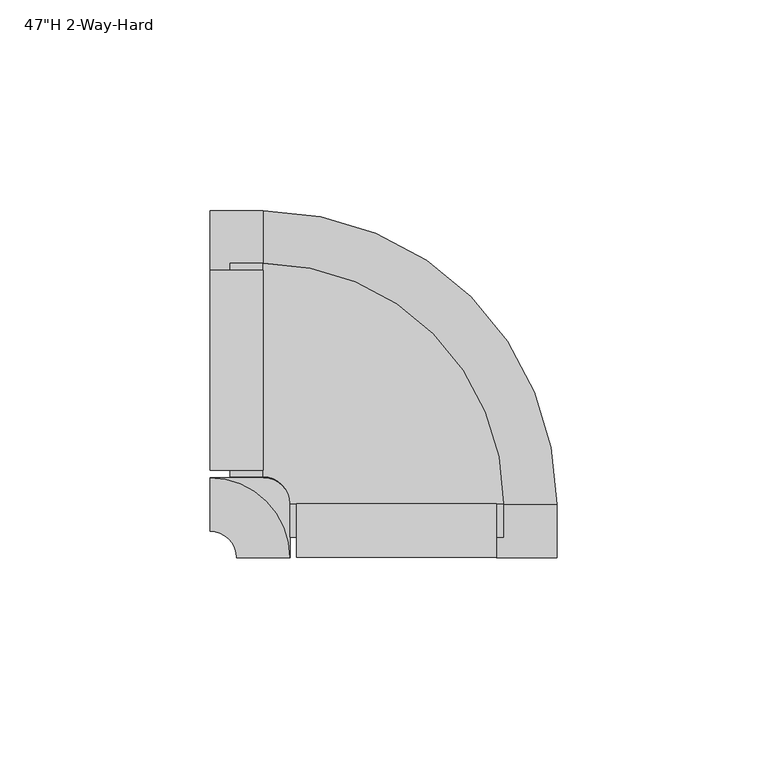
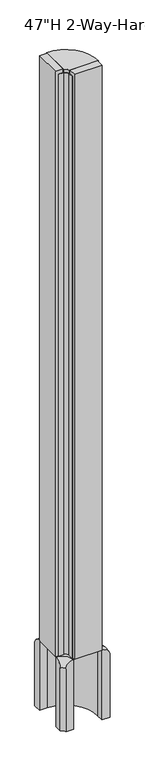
"""IFC4 building model written with IfcOpenShell, lengths in millimetres: furniture geometry."""

import ifcopenshell
import ifcopenshell.guid

model = None  # the IFC model being written
_history = None  # IfcOwnerHistory: only IFC2X3 demands one
_inside = {}  # id of a spatial element -> (the spatial element, [elements in it])
_under = {}  # id of a project, library or spatial element -> (it, [spatial elements below it])
_declared = {}  # id of a project -> (the project, [libraries it declares])
_typed = {}  # id of a type object -> (the type object, [elements of that type])
_made_of = {}  # id of a material, layer set ... -> (it, [elements and type objects made of it])


def new_model(schema):
    """Start an empty IFC model of exactly this schema.

    Asked for "IFC4X3", IfcOpenShell would pick the latest addendum, in which some entities
    have other attributes; the version numbers below select the first issue.
    IFC2X3 requires an IfcOwnerHistory on every rooted entity: one is made here for all.
    """
    global model, _history
    if schema == "IFC4X3":
        model = ifcopenshell.file(schema_version=(4, 3, 0, 0))
    else:
        model = ifcopenshell.file(schema=schema)
    _inside.clear()
    _under.clear()
    _declared.clear()
    _typed.clear()
    _made_of.clear()
    _history = None
    if model.schema == "IFC2X3":
        org = make("IfcOrganization", Name="unknown")
        user = make(
            "IfcPersonAndOrganization",
            ThePerson=make("IfcPerson", FamilyName="unknown"),
            TheOrganization=org,
        )
        app = make(
            "IfcApplication",
            ApplicationDeveloper=org,
            Version="unknown",
            ApplicationFullName="unknown",
            ApplicationIdentifier="unknown",
        )
        _history = make(
            "IfcOwnerHistory",
            OwningUser=user,
            OwningApplication=app,
            ChangeAction="ADDED",
            CreationDate=0,
        )
    return model


def make(cls, **values):
    """One entity of the class cls with the attributes given. An attribute that is None is left unset."""
    return model.create_entity(
        cls, **{name: value for name, value in values.items() if value is not None}
    )


def rooted(cls, **values):
    """An entity with a GlobalId (a new one), such as an element, a storey or a relation."""
    return make(cls, GlobalId=ifcopenshell.guid.new(), OwnerHistory=_history, **values)


def si_unit(unit_type, name, prefix=None):
    """IfcSIUnit, for example si_unit("LENGTHUNIT", "METRE", prefix="MILLI")."""
    return make("IfcSIUnit", UnitType=unit_type, Prefix=prefix, Name=name)


def assignment(units):
    """IfcUnitAssignment: the units of a project."""
    return None if units is None else make("IfcUnitAssignment", Units=units)


def point(xyz):
    """IfcCartesianPoint."""
    return None if xyz is None else make("IfcCartesianPoint", Coordinates=xyz)


def direction(xyz):
    """IfcDirection."""
    return None if xyz is None else make("IfcDirection", DirectionRatios=xyz)


def frame(location, z_axis=None, x_axis=None):
    """IfcAxis2Placement3D, a coordinate frame: its origin and axes. An axis left out is left unset."""
    return make(
        "IfcAxis2Placement3D",
        Location=point(location),
        Axis=direction(z_axis),
        RefDirection=direction(x_axis),
    )


def frame_2d(location, x_axis=None):
    """IfcAxis2Placement2D, a coordinate frame in the plane: its origin and x axis."""
    return make(
        "IfcAxis2Placement2D", Location=point(location), RefDirection=direction(x_axis)
    )


def origin():
    """The frame at (0, 0, 0) with its axes left unset."""
    return frame((0.0, 0.0, 0.0))


def place(relative_to, where):
    """IfcLocalPlacement: puts the frame where relative to a parent placement (None: the world)."""
    return make(
        "IfcLocalPlacement", PlacementRelTo=relative_to, RelativePlacement=where
    )


def context(
    kind, dimensions, precision=None, world=None, true_north=None, identifier=None
):
    """IfcGeometricRepresentationContext, for example the 3D "Model" context."""
    return make(
        "IfcGeometricRepresentationContext",
        ContextIdentifier=identifier,
        ContextType=kind,
        CoordinateSpaceDimension=dimensions,
        Precision=precision,
        WorldCoordinateSystem=world,
        TrueNorth=true_north,
    )


def project(units=None, contexts=None):
    """IfcProject with its units and contexts."""
    return rooted(
        "IfcProject",
        Name="project",
        RepresentationContexts=contexts,
        UnitsInContext=assignment(units),
    )


def spatial(cls, under=None, at=None, **own):
    """A site, building, storey or space (cls), placed at a placement, below another one or the project."""
    s = rooted(cls, ObjectPlacement=at, **own)
    if under is not None:
        _under.setdefault(under.id(), (under, []))[1].append(s)
    return s


def polyline(points):
    """IfcPolyline through the points."""
    return make("IfcPolyline", Points=[point(p) for p in points])


def circle_curve(where, radius):
    """IfcCircle in the frame where."""
    return make("IfcCircle", Position=where, Radius=radius)


def ellipse_curve(where, semi_axis1, semi_axis2):
    """IfcEllipse in the frame where."""
    return make(
        "IfcEllipse", Position=where, SemiAxis1=semi_axis1, SemiAxis2=semi_axis2
    )


def trimmed(basis, trim1, trim2, sense, master):
    """IfcTrimmedCurve: the piece of a basis curve between two trims."""
    return make(
        "IfcTrimmedCurve",
        BasisCurve=basis,
        Trim1=trim1,
        Trim2=trim2,
        SenseAgreement=sense,
        MasterRepresentation=master,
    )


def segment(curve, same_sense, transition):
    """IfcCompositeCurveSegment."""
    return make(
        "IfcCompositeCurveSegment",
        Transition=transition,
        SameSense=same_sense,
        ParentCurve=curve,
    )


def composite_curve(segments, self_intersect=None):
    """IfcCompositeCurve: segments joined end to end."""
    return make("IfcCompositeCurve", Segments=segments, SelfIntersect=self_intersect)


def outline(outer, holes=None, kind="AREA"):
    """IfcArbitraryClosedProfileDef: a profile drawn as a closed curve; with holes, ...WithVoids."""
    if holes is None:
        return make("IfcArbitraryClosedProfileDef", ProfileType=kind, OuterCurve=outer)
    return make(
        "IfcArbitraryProfileDefWithVoids",
        ProfileType=kind,
        OuterCurve=outer,
        InnerCurves=holes,
    )


def extrude(swept, where, along, depth):
    """IfcExtrudedAreaSolid: the profile swept, set in the frame where, extruded along a direction by depth."""
    return make(
        "IfcExtrudedAreaSolid",
        SweptArea=swept,
        Position=where,
        ExtrudedDirection=direction(along),
        Depth=depth,
    )


def shape(context_of_items, identifier, shape_type, items):
    """IfcShapeRepresentation: the items that make up one representation, for example the "Body"."""
    return make(
        "IfcShapeRepresentation",
        ContextOfItems=context_of_items,
        RepresentationIdentifier=identifier,
        RepresentationType=shape_type,
        Items=items,
    )


def source(mapping_origin, context_of_items, identifier, shape_type, items):
    """IfcRepresentationMap: a shape defined once, which mapped items show again and again."""
    return make(
        "IfcRepresentationMap",
        MappingOrigin=mapping_origin,
        MappedRepresentation=shape(context_of_items, identifier, shape_type, items),
    )


def transform(
    local_origin,
    x_axis=None,
    y_axis=None,
    z_axis=None,
    scale=None,
    scale2=None,
    scale3=None,
    uniform=True,
):
    """IfcCartesianTransformationOperator3D, or its non-uniform kind. x_axis, y_axis, z_axis: its Axis1, 2, 3."""
    if uniform:
        return make(
            "IfcCartesianTransformationOperator3D",
            Axis1=direction(x_axis),
            Axis2=direction(y_axis),
            LocalOrigin=point(local_origin),
            Scale=scale,
            Axis3=direction(z_axis),
        )
    return make(
        "IfcCartesianTransformationOperator3DnonUniform",
        Axis1=direction(x_axis),
        Axis2=direction(y_axis),
        LocalOrigin=point(local_origin),
        Scale=scale,
        Axis3=direction(z_axis),
        Scale2=scale2,
        Scale3=scale3,
    )


def mapped(mapping_source, mapping_target):
    """IfcMappedItem: shows the shape of a source again, moved by a transform."""
    return make(
        "IfcMappedItem", MappingSource=mapping_source, MappingTarget=mapping_target
    )


def made_of(thing, what):
    """Note that an element or type object is made of a material, layer set ...; save() writes the relation."""
    if what is not None:
        _made_of.setdefault(what.id(), (what, []))[1].append(thing)
    return thing


def element(
    cls,
    number,
    at=None,
    inside=None,
    cuts=None,
    type_object=None,
    material=None,
    context=None,
    identifier="Body",
    shape_type=None,
    held_by="IfcProductDefinitionShape",
    body=None,
    shapes=None,
    **own,
):
    """One element of the class cls, such as IfcWall. Its Tag is "e" and its number.

    at: its placement. inside: the storey or other place that contains it. cuts: it is an
    opening in that element (IfcRelVoidsElement). A single representation is given by context,
    identifier, shape_type and body (its items); several are given by shapes. held_by: the class
    of the entity that holds the representations. save() writes the other relations.
    """
    e = rooted(cls, Tag="e%d" % number, ObjectPlacement=at, **own)
    if body is not None:
        shapes = [shape(context, identifier, shape_type, body)]
    if shapes is not None:
        e.Representation = make(held_by, Representations=shapes)
    if inside is not None:
        _inside.setdefault(inside.id(), (inside, []))[1].append(e)
    if cuts is not None:
        rooted(
            "IfcRelVoidsElement", RelatingBuildingElement=cuts, RelatedOpeningElement=e
        )
    if type_object is not None:
        _typed.setdefault(type_object.id(), (type_object, []))[1].append(e)
    return made_of(e, material)


def aggregate(whole, parts):
    """IfcRelAggregates: a whole, such as a stair, and the parts it consists of."""
    return rooted("IfcRelAggregates", RelatingObject=whole, RelatedObjects=parts)


def save(model, path):
    """Write the relations noted so far, then the file.

    IfcRelAggregates (storeys below a building ...), IfcRelContainedInSpatialStructure (elements
    in a storey), IfcRelDefinesByType, IfcRelAssociatesMaterial and IfcRelDeclares: one each for
    every whole, place, type object, material and project.
    """
    for whole, parts in _under.values():
        aggregate(whole, parts)
    for where, things in _inside.values():
        rooted(
            "IfcRelContainedInSpatialStructure",
            RelatedElements=things,
            RelatingStructure=where,
        )
    for kind, things in _typed.values():
        rooted("IfcRelDefinesByType", RelatedObjects=things, RelatingType=kind)
    for what, things in _made_of.values():
        rooted("IfcRelAssociatesMaterial", RelatedObjects=things, RelatingMaterial=what)
    for by, libraries in _declared.values():
        rooted("IfcRelDeclares", RelatingContext=by, RelatedDefinitions=libraries)
    model.write(path)


def plane_surface(at):
    """IfcPlane: the flat surface through the origin of the frame at, square to its z axis."""
    return make("IfcPlane", Position=at)


def cylinder_surface(at, radius):
    """IfcCylindricalSurface: all points at the distance radius from the z axis of the frame at."""
    return make("IfcCylindricalSurface", Position=at, Radius=radius)


def revolved_surface(curve, axis_point, axis_direction):
    """IfcSurfaceOfRevolution: the curve turned about the line through axis_point along axis_direction."""
    return make(
        "IfcSurfaceOfRevolution",
        SweptCurve=make("IfcArbitraryOpenProfileDef", ProfileType="CURVE", Curve=curve),
        AxisPosition=make("IfcAxis1Placement", Location=point(axis_point), Axis=direction(axis_direction)),
    )


def advanced_brep(points, edges, surfaces, faces):
    """IfcAdvancedBrep: a solid bounded by faces that lie on surfaces and meet in shared edges.

    An edge is (start, end): straight between two places in points (the first is 0);
    or (start, end, curve); or (start, end, curve, False) where it runs against its curve.
    A face is (place in surfaces, loops), or (place, loops, False) where it looks against
    its surface's normal. A loop lists edges by number (the first is 1), with a minus sign
    where the edge is run from its end to its start. The first loop is the outer one.
    """
    corners = [point(p) for p in points]
    vertices = [make("IfcVertexPoint", VertexGeometry=c) for c in corners]
    made = []
    for start, end, *more in edges:
        made.append(
            make(
                "IfcEdgeCurve",
                EdgeStart=vertices[start],
                EdgeEnd=vertices[end],
                EdgeGeometry=more[0] if more else make("IfcPolyline", Points=[corners[start], corners[end]]),
                SameSense=more[1] if len(more) > 1 else True,
            )
        )
    hull = []
    for where, loops, *sense in faces:
        bounds = []
        for j, loop in enumerate(loops):
            ring = [make("IfcOrientedEdge", EdgeElement=made[abs(k) - 1], Orientation=k > 0) for k in loop]
            bounds.append(
                make(
                    "IfcFaceOuterBound" if j == 0 else "IfcFaceBound",
                    Bound=make("IfcEdgeLoop", EdgeList=ring),
                    Orientation=True,
                )
            )
        hull.append(make("IfcAdvancedFace", Bounds=bounds, FaceSurface=surfaces[where], SameSense=sense[0] if sense else True))
    return make("IfcAdvancedBrep", Outer=make("IfcClosedShell", CfsFaces=hull))


def furniture_3c70095f(model_context):
    return source(origin(), model_context, "Body", "SolidModel", [
        advanced_brep(
        [(-19.0506343, -17.235422, 136.525), (-25.3999996, -10.8860567, 136.525), (-38.1, -10.8860567, 136.525), (-19.0506343, -29.9360586, 136.525), (-19.0506343, -17.235422, 9.525), (-19.0506343, -29.9360586, 9.525), (-31.7499951, -29.9360586, 9.525), (-38.1, -23.5860537, 9.525), (-38.1, -10.8860567, 9.525), (-25.3999996, -10.8860567, 9.525), (-38.1, -23.5860537, 123.8256424), (-31.7499951, -29.9360586, 123.8256423)],
        [
            (0, 1, circle_curve(frame((-25.3999996, -17.235422, 136.525), z_axis=(0.0, 0.0, 1.0), x_axis=(0.0, 1.0, 0.0)), 6.3493653)),
            (1, 2),
            (2, 3, circle_curve(frame((-38.1, -29.9360586, 136.525), z_axis=(0.0, 0.0, -1.0), x_axis=(0.0, 1.0, 0.0)), 19.0493657)),
            (3, 0),
            (4, 5),
            (5, 6),
            (6, 7, circle_curve(frame((-38.1, -29.9360586, 9.525), z_axis=(0.0, 0.0, 1.0), x_axis=(0.0, 1.0, 0.0)), 6.3500049)),
            (7, 8),
            (8, 9),
            (9, 4, circle_curve(frame((-25.3999996, -17.235422, 9.525), z_axis=(0.0, 0.0, -1.0), x_axis=(0.0, 1.0, 0.0)), 6.3493653)),
            (0, 4),
            (9, 1),
            (8, 2),
            (7, 10),
            (10, 2, circle_curve(frame((-38.1, -10.886693, 123.8256393), z_axis=(-1.0, 0.0, 0.0), x_axis=(0.0, 1.0, 0.0)), 12.6993607)),
            (6, 11),
            (11, 10, circle_curve(frame((-38.1, -29.9360586, 123.8256393), z_axis=(0.0, 0.0, 1.0), x_axis=(0.0, 1.0, 0.0)), 6.3500049)),
            (5, 3),
            (3, 11, circle_curve(frame((-19.0506343, -29.9360586, 123.8256393), z_axis=(0.0, -1.0, 0.0), x_axis=(1.0, 0.0, 0.0)), 12.6993607)),
        ],
        [
            plane_surface(frame((-25.3999996, -10.8860567, 136.525), z_axis=(0.0, 0.0, 1.0), x_axis=(-1.0, 0.0, 0.0))),
            plane_surface(frame((-25.3999996, -10.8860567, 9.525), z_axis=(0.0, 0.0, -1.0), x_axis=(1.0, 0.0, 0.0))),
            cylinder_surface(frame((-25.3999996, -17.235422, 9.525), z_axis=(0.0, 0.0, 1.0), x_axis=(0.0, 1.0, 0.0)), 6.3493653),
            plane_surface(frame((-25.3999996, -10.8860567, 136.525), z_axis=(0.0, 1.0, 0.0), x_axis=(0.0, 0.0, -1.0))),
            plane_surface(frame((-38.1, -10.8860567, 136.525), z_axis=(-1.0, 0.0, 0.0), x_axis=(0.0, 0.0, -1.0))),
            revolved_surface(polyline([(-38.1, -23.5860537, 9.525), (-38.1, -23.5860537, 123.8256424)]), (-38.1, -29.9360586, 9.525), (0.0, 0.0, -1.0)),
            plane_surface(frame((-31.7499951, -29.9360586, 136.525), z_axis=(0.0, -1.0, 0.0), x_axis=(0.0, 0.0, -1.0))),
            plane_surface(frame((-19.0506343, -29.9360586, 136.525), z_axis=(1.0, 0.0, 0.0), x_axis=(0.0, 0.0, -1.0))),
            revolved_surface(trimmed(ellipse_curve(frame((-38.1, -10.886693, 123.8256393), z_axis=(-1.0, 0.0, 0.0), x_axis=(0.0, 1.0, 0.0)), 12.6993607, 12.6993607), [point((-38.1, -23.5860537, 123.8256393))], [point((-38.1, -10.886693, 136.525))], True, "CARTESIAN"), (-38.1, -29.9360586, 9.525), (0.0, 0.0, -1.0)),
        ],
        [
            (0, [[1, 2, 3, 4]]),
            (1, [[5, 6, 7, 8, 9, 10]]),
            (2, [[-1, 11, -10, 12]]),
            (3, [[-2, -12, -9, 13]]),
            (4, [[-8, 14, 15, -13]]),
            (5, [[-7, 16, 17, -14]]),
            (6, [[-6, 18, 19, -16]]),
            (7, [[-4, -18, -5, -11]]),
            (8, [[-3, -15, -17, -19]]),
        ],
    ),
        advanced_brep(
        [(-38.0999996, 52.6145776, 123.825), (-38.0999996, 52.6145776, 9.525), (-38.0999996, 38.3270761, 9.525), (-38.0999996, 38.3270761, 136.4092179), (-25.3999996, 52.6145776, 123.825), (-25.3999996, 52.6145776, 9.525), (44.45, -17.235422, 9.525), (44.45, -29.935422, 9.525), (30.1624985, -29.935422, 9.525), (30.1624985, -17.235422, 9.525), (-25.3999996, 38.3270761, 9.525), (-25.3999996, 38.3270761, 136.4092179), (44.45, -17.235422, 123.825), (30.1624985, -17.235422, 136.4092179), (44.45, -29.935422, 123.825), (30.1624985, -29.935422, 136.4092179)],
        [
            (0, 1),
            (1, 2),
            (2, 3),
            (3, 0, circle_curve(frame((-38.0999996, 39.9288313, 123.825), z_axis=(-1.0, 0.0, 0.0), x_axis=(0.0, 1.0, 0.0)), 12.6857463)),
            (0, 4),
            (4, 5),
            (5, 1),
            (5, 6, circle_curve(frame((-25.3999996, -17.235422, 9.525), z_axis=(0.0, 0.0, -1.0), x_axis=(0.0, 1.0, 0.0)), 69.8499996)),
            (6, 7),
            (7, 8),
            (8, 9),
            (9, 10, circle_curve(frame((-25.3999996, -17.235422, 9.525), z_axis=(0.0, 0.0, 1.0), x_axis=(0.0, 1.0, 0.0)), 55.5624981)),
            (10, 2),
            (10, 11),
            (11, 3),
            (11, 4, circle_curve(frame((-25.3999996, 39.9288313, 123.825), z_axis=(-1.0, 0.0, 0.0), x_axis=(0.0, 1.0, 0.0)), 12.6857463)),
            (4, 12, circle_curve(frame((-25.3999996, -17.235422, 123.825), z_axis=(0.0, 0.0, -1.0), x_axis=(0.0, 1.0, 0.0)), 69.8499996)),
            (12, 6),
            (9, 13),
            (13, 11, circle_curve(frame((-25.3999996, -17.235422, 136.4092179), z_axis=(0.0, 0.0, 1.0), x_axis=(0.0, 1.0, 0.0)), 55.5624981)),
            (13, 12, circle_curve(frame((31.7642537, -17.235422, 123.825), z_axis=(0.0, 1.0, 0.0), x_axis=(1.0, 0.0, 0.0)), 12.6857463)),
            (7, 14),
            (14, 15, circle_curve(frame((31.7642537, -29.935422, 123.825), z_axis=(0.0, -1.0, 0.0), x_axis=(1.0, 0.0, 0.0)), 12.6857463)),
            (15, 8),
            (12, 14),
            (15, 13),
        ],
        [
            plane_surface(frame((-38.0999996, 14.5139433, 9.525), z_axis=(-1.0, 0.0, 0.0), x_axis=(0.0, 0.0, 1.0))),
            plane_surface(frame((-38.0999996, 52.6145776, 123.825), z_axis=(0.0, 1.0, 0.0), x_axis=(1.0, 0.0, 0.0))),
            plane_surface(frame((-38.0999996, 52.6145776, 9.525), z_axis=(0.0, 0.0, -1.0), x_axis=(1.0, 0.0, 0.0))),
            plane_surface(frame((-38.0999996, 38.3270761, 9.525), z_axis=(0.0, -1.0, 0.0), x_axis=(1.0, 0.0, 0.0))),
            cylinder_surface(frame((-38.0999996, 39.9288313, 123.825), z_axis=(-1.0, 0.0, 0.0), x_axis=(0.0, 1.0, 0.0)), 12.6857463),
            cylinder_surface(frame((-25.3999996, -17.235422, 9.525), z_axis=(0.0, 0.0, -1.0), x_axis=(0.0, 1.0, 0.0)), 69.8499996),
            revolved_surface(polyline([(-25.3999996, 38.3270761, 9.525), (-25.3999996, 38.3270761, 136.4092179)]), (-25.3999996, -17.235422, 9.525), (0.0, 0.0, -1.0)),
            revolved_surface(trimmed(ellipse_curve(frame((-25.3999996, 39.9288313, 123.825), z_axis=(-1.0, 0.0, 0.0), x_axis=(0.0, 1.0, 0.0)), 12.6857463, 12.6857463), [point((-25.3999996, 38.3270761, 136.4092179))], [point((-25.3999996, 52.6145776, 123.825))], True, "CARTESIAN"), (-25.3999996, -17.235422, 9.525), (0.0, 0.0, -1.0)),
            plane_surface(frame((6.3493657, -29.935422, 9.525), z_axis=(0.0, -1.0, 0.0), x_axis=(0.0, 0.0, 1.0))),
            plane_surface(frame((44.45, -17.235422, 123.825), z_axis=(1.0, 0.0, 0.0), x_axis=(0.0, -1.0, 0.0))),
            plane_surface(frame((30.1624985, -17.235422, 9.525), z_axis=(-1.0, 0.0, 0.0), x_axis=(0.0, -1.0, 0.0))),
            cylinder_surface(frame((31.7642537, -17.235422, 123.825), z_axis=(0.0, 1.0, 0.0), x_axis=(1.0, 0.0, 0.0)), 12.6857463),
        ],
        [
            (0, [[1, 2, 3, 4]]),
            (1, [[-1, 5, 6, 7]]),
            (2, [[-2, -7, 8, 9, 10, 11, 12, 13]]),
            (3, [[-3, -13, 14, 15]]),
            (4, [[-4, -15, 16, -5]]),
            (5, [[-6, 17, 18, -8]]),
            (6, [[-12, 19, 20, -14]]),
            (7, [[-16, -20, 21, -17]]),
            (8, [[-10, 22, 23, 24]]),
            (9, [[-9, -18, 25, -22]]),
            (10, [[-11, -24, 26, -19]]),
            (11, [[-21, -26, -23, -25]]),
        ],
    ),
        extrude(outline(polyline([(30.1624985, -29.9360586), (-17.4624992, -29.9360586), (-17.4624992, -17.210659), (30.1624985, -17.210659), (30.1624985, -29.9360586)])), frame((0.0, 0.0, 136.525), z_axis=(0.0, 0.0, 1.0), x_axis=(1.0, 0.0, 0.0)), (0.0, 0.0, 1.0), 1066.8),
        extrude(outline(polyline([(-38.1, -9.2985567), (-38.1, 38.3264433), (-25.3999996, 38.3264433), (-25.3999996, -9.2985567), (-38.1, -9.2985567)])), frame((0.0, 0.0, 136.525), z_axis=(0.0, 0.0, 1.0), x_axis=(1.0, 0.0, 0.0)), (0.0, 0.0, 1.0), 1066.8),
        extrude(outline(composite_curve([segment(trimmed(circle_curve(frame_2d((-25.3999996, -17.235422)), 6.3493653), [point((-19.0506343, -17.235422))], [point((-25.3999996, -10.8860567))], True, "CARTESIAN"), True, "CONTINUOUS"), segment(polyline([(-25.3999996, -10.8860567), (-33.3375, -10.8860567), (-33.3375, 39.9139433), (-25.3752366, 39.9139433)]), True, "CONTINUOUS"), segment(trimmed(circle_curve(frame_2d((-25.3752366, -17.210659)), 57.1246022), [point((-25.3752366, 39.9139433))], [point((31.7493657, -17.210659))], False, "CARTESIAN"), True, "CONTINUOUS"), segment(polyline([(31.7493657, -17.210659), (31.7493657, -25.1735586), (-19.0506343, -25.1735586), (-19.0506343, -17.235422)]), True, "CONTINUOUS")], self_intersect=False)), frame((0.0, 0.0, 136.525), z_axis=(0.0, 0.0, 1.0), x_axis=(1.0, 0.0, 0.0)), (0.0, 0.0, 1.0), 1060.4499758),
        extrude(outline(composite_curve([segment(polyline([(-25.3999996, -10.886063), (-25.3999996, 39.9139433)]), True, "CONTINUOUS"), segment(trimmed(circle_curve(frame_2d((-25.382294, -17.2177141)), 57.1316601), [point((-25.3999996, 39.9139433))], [point((31.7493657, -17.210659))], False, "CARTESIAN"), True, "CONTINUOUS"), segment(polyline([(31.7493657, -17.210659), (-19.0506343, -17.210659)]), True, "CONTINUOUS"), segment(trimmed(circle_curve(frame_2d((-25.391065, -17.2265072)), 6.3404505), [point((-19.0506343, -17.210659))], [point((-25.3999996, -10.886063))], True, "CARTESIAN"), True, "CONTINUOUS")], self_intersect=False)), frame((0.0, 0.0, 1196.9749758), z_axis=(0.0, 0.0, 1.0), x_axis=(1.0, 0.0, 0.0)), (0.0, 0.0, 1.0), 6.3500242),
    ])


if __name__ == "__main__":
    model = new_model("IFC4")
    model_context = context("Model", 3, world=origin())
    ifc_project = project(units=[si_unit("LENGTHUNIT", "METRE", prefix="MILLI")], contexts=[model_context])
    site = spatial("IfcSite", under=ifc_project)
    building = spatial("IfcBuilding", under=site)
    placement = place(None, origin())
    furniture_shape = furniture_3c70095f(model_context)
    element("IfcFurniture", 1, ObjectType="HermanMiller_ActionOffice_A1220_90ConnectorStandardBase : 47\"H 2-Way-Hard", at=placement, inside=building, context=model_context, shape_type="MappedRepresentation", body=[
        mapped(furniture_shape, transform((0.0, 0.0, 0.0), x_axis=(1.0, 0.0, 0.0), y_axis=(0.0, 1.0, 0.0), z_axis=(0.0, 0.0, 1.0))),
    ])
    save(model, "model.ifc")
